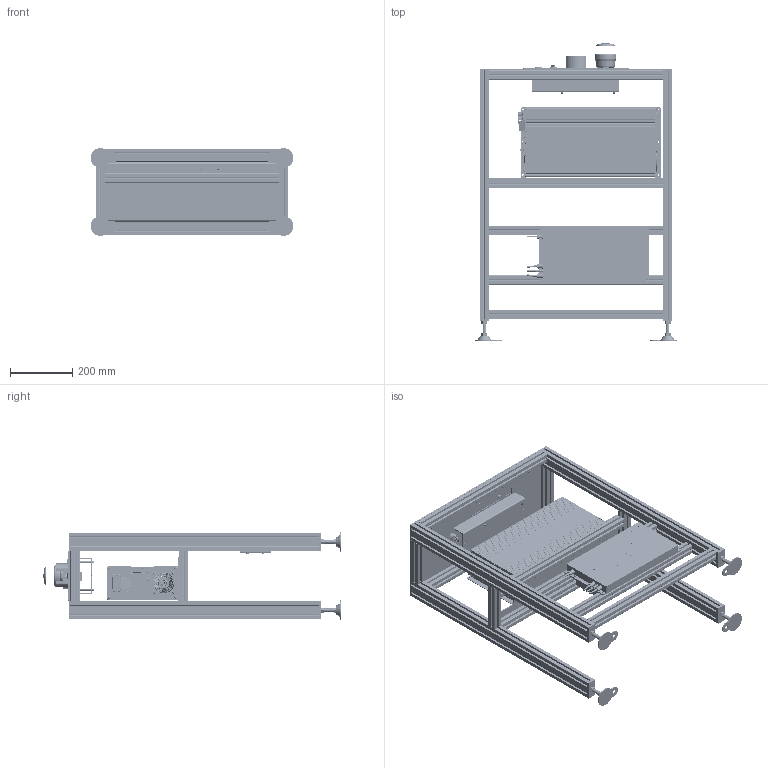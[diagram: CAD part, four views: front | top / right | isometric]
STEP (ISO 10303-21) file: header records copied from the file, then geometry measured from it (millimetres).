
FILE_DESCRIPTION(/* description */ ('','CAx-IF Rec.Pracs.---Representation and Presentation of Product Manufacturing Information (PMI)---4.0---2014-10-13'),/* implementation_level */ '2;1');
FILE_NAME(/* name */ 'G:\06_WPT_고객용 도면\[ Charging Station ]\2022~ [고객용]\2022.07.14_TWC-TX-STA-Total.stp',/* time_stamp */ '2022-07-14T18:07:54+09:00',/* author */ ('jjang'),/* organization */ (''),/* preprocessor_version */ 'ST-DEVELOPER v18.1',/* originating_system */ 'Autodesk Inventor 2021',/* authorisation */ '');
FILE_SCHEMA (('AP242_MANAGED_MODEL_BASED_3D_ENGINEERING_MIM_LF { 1 0 10303 442 1 1 4 }'));
Products named in the file (1): [고객용] Charging Station_Shrinkwrap_1
Bounding box: 653 x 957.32 x 282.95 mm (x, y, z)
Volume: 10282143.7 mm3; surface area: 4126036 mm2
Topology: 11 solids, 11 shells, 17857 faces, 49373 edges, 32439 vertices
Faces by surface type: plane 10070, bspline 3433, cylinder 3430, torus 577, cone 296, sphere 51
Full cylindrical faces by diameter (mm): 0.245 x3, 0.29 x3, 0.457 x2, 0.6 x9, 0.86 x3, 0.9 x6, 1 x47, 1.02 x31, 1.1 x2, 1.2 x18, 1.5 x1, 1.6 x4, 1.794 x8, 2.388 x1, 2.5 x27, 2.987 x12, 3 x12, 3.05 x2, 3.182 x3, 3.2 x22, 3.25 x6, 3.3 x4, 3.385 x1, 3.4 x2, 3.6 x11, 3.8 x8, 4 x50, 4.2 x17, 4.3 x20, 4.389 x1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
Entity records: 682861 total; most frequent: CARTESIAN_POINT 226213, ORIENTED_EDGE 98682, DIRECTION 80949, EDGE_CURVE 49341, VERTEX_POINT 32439, LINE 31073, VECTOR 31073, AXIS2_PLACEMENT_3D 24938
